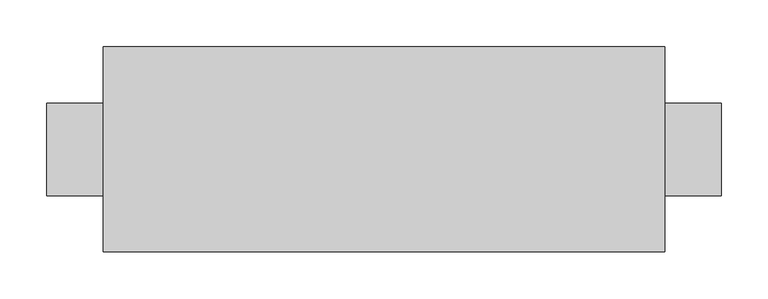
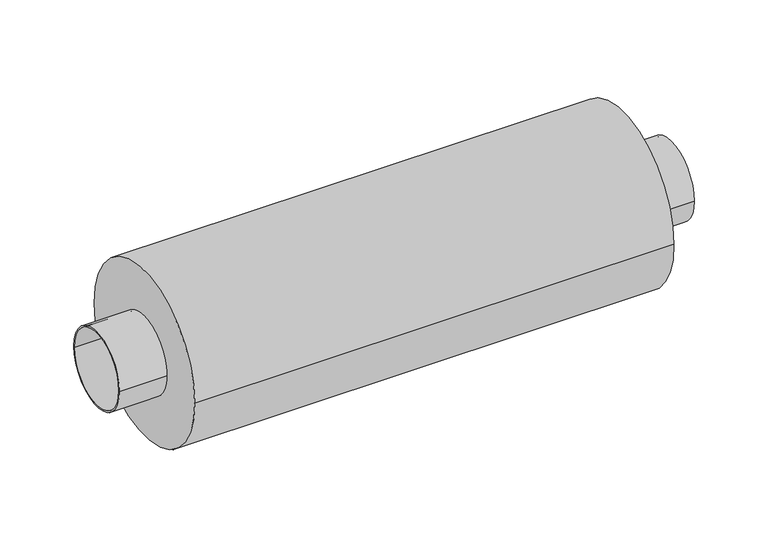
"""IFC4 building model written with IfcOpenShell, lengths in millimetres: damper geometry, СВ_Шумоглушитель_КанальныйКруглый_DN100-315_SHK : SHK-100/600."""

from ifc_helpers import new_model, si_unit, point, frame, origin, origin_2d, place, context, project, spatial, circle_curve, trimmed, segment, composite_curve, outline, extrude, source, transform, mapped, element, save


def damper_bbc71dfa(model_context):
    return source(origin(), model_context, "Body", "SweptSolid", [
        extrude(outline(composite_curve([segment(trimmed(circle_curve(origin_2d(), 109.5), [point((-109.5, 0.0))], [point((109.5, 0.0))], False, "CARTESIAN"), True, "CONTINUOUS"), segment(trimmed(circle_curve(origin_2d(), 109.5), [point((109.5, 0.0))], [point((-109.5, 0.0))], False, "CARTESIAN"), True, "CONTINUOUS")], self_intersect=False)), frame((-300.0, 0.0, 0.0), z_axis=(1.0, 0.0, 0.0), x_axis=(0.0, 1.0, 0.0)), (0.0, 0.0, 1.0), 600.0),
        extrude(outline(composite_curve([segment(trimmed(circle_curve(origin_2d(), 49.5), [point((-49.5, 0.0))], [point((49.5, 0.0))], False, "CARTESIAN"), True, "CONTINUOUS"), segment(trimmed(circle_curve(origin_2d(), 49.5), [point((49.5, 0.0))], [point((-49.5, 0.0))], False, "CARTESIAN"), True, "CONTINUOUS")], self_intersect=False), holes=[composite_curve([segment(trimmed(circle_curve(origin_2d(), 47.5), [point((-47.5, 0.0))], [point((47.5, 0.0))], True, "CARTESIAN"), True, "CONTINUOUS"), segment(trimmed(circle_curve(origin_2d(), 47.5), [point((47.5, 0.0))], [point((-47.5, 0.0))], True, "CARTESIAN"), True, "CONTINUOUS")], self_intersect=False)]), frame((-360.0, 0.0, 0.0), z_axis=(1.0, 0.0, 0.0), x_axis=(0.0, 1.0, 0.0)), (0.0, 0.0, 1.0), 60.0),
        extrude(outline(composite_curve([segment(trimmed(circle_curve(origin_2d(), 49.5), [point((-49.5, 0.0))], [point((49.5, 0.0))], False, "CARTESIAN"), True, "CONTINUOUS"), segment(trimmed(circle_curve(origin_2d(), 49.5), [point((49.5, 0.0))], [point((-49.5, 0.0))], False, "CARTESIAN"), True, "CONTINUOUS")], self_intersect=False), holes=[composite_curve([segment(trimmed(circle_curve(origin_2d(), 47.5), [point((-47.5, 0.0))], [point((47.5, 0.0))], True, "CARTESIAN"), True, "CONTINUOUS"), segment(trimmed(circle_curve(origin_2d(), 47.5), [point((47.5, 0.0))], [point((-47.5, 0.0))], True, "CARTESIAN"), True, "CONTINUOUS")], self_intersect=False)]), frame((300.0, 0.0, 0.0), z_axis=(1.0, 0.0, 0.0), x_axis=(0.0, 1.0, 0.0)), (0.0, 0.0, 1.0), 60.0),
    ])


if __name__ == "__main__":
    model = new_model("IFC4")
    model_context = context("Model", 3, world=origin())
    ifc_project = project(units=[si_unit("LENGTHUNIT", "METRE", prefix="MILLI")], contexts=[model_context])
    site = spatial("IfcSite", under=ifc_project)
    building = spatial("IfcBuilding", under=site)
    placement = place(None, origin())
    damper_shape = damper_bbc71dfa(model_context)
    element("IfcDamper", 1, ObjectType="СВ_Шумоглушитель_КанальныйКруглый_DN100-315_SHK : SHK-100/600", at=placement, inside=building, context=model_context, shape_type="MappedRepresentation", body=[
        mapped(damper_shape, transform((0.0, 0.0, 0.0), x_axis=(1.0, 0.0, 0.0), y_axis=(0.0, 1.0, 0.0), z_axis=(0.0, 0.0, 1.0))),
    ])
    save(model, "model.ifc")
